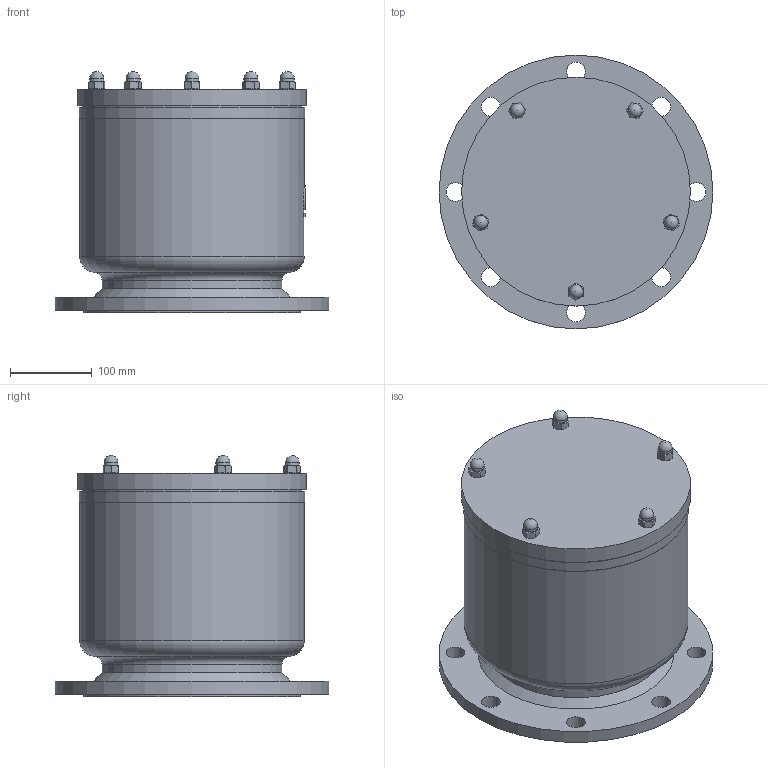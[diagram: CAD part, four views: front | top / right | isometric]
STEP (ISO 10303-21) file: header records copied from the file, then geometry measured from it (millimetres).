
FILE_DESCRIPTION(('STEP AP203'), '1');
FILE_NAME('A10F.Z DN200 PN10', '', ('UNSPECIFIED'), ('UNSPECIFIED'), 'ASCON STEP Converter 1.6', 'ASCON Math Kernel', '');
FILE_SCHEMA(('CONFIG_CONTROL_DESIGN'));
Length unit declared in the file: millimetre
Products named in the file (3): A10F.Z DN200 PN10
Assembly tree (5 placements, depth 2):
  A10F.Z DN200 PN10
    (unnamed)  x3
    (unnamed)  x2
Bounding box: 335 x 335 x 295 mm (x, y, z)
Volume: 8301963.9 mm3; surface area: 614978.6 mm2
Topology: 3 solids, 6 shells, 119 faces, 265 edges, 168 vertices
Faces by surface type: plane 58, cylinder 33, cone 21, sphere 5, torus 2
Full cylindrical faces by diameter (mm): 10.106 x5, 17 x5, 23 x8, 200 x1, 220 x1, 265 x1, 270 x1, 275 x1, 276 x1, 280 x1, 335 x1
Entity records: 6041 total; most frequent: CARTESIAN_POINT 3065, DIRECTION 411, ORIENTED_EDGE 352, AXIS2_PLACEMENT_3D 182, EDGE_LOOP 176, EDGE_CURVE 176, VERTEX_POINT 138, ADVANCED_FACE 104
